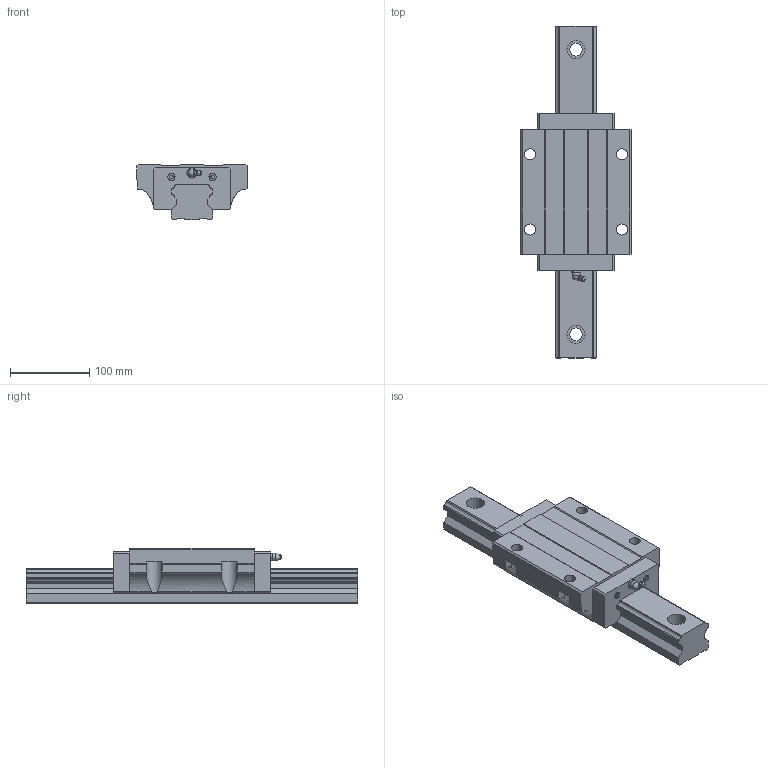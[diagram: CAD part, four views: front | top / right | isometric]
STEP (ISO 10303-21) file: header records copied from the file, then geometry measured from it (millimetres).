
FILE_DESCRIPTION(/* description */ (''),/* implementation_level */ '2;1');
FILE_NAME(/* name */ 'MSA55LE',/* time_stamp */ '2005-12-26T16:27:49+08:00',/* author */ (''),/* organization */ (''),/* preprocessor_version */ 'ST-DEVELOPER v9',/* originating_system */ 'UGS - NX 3.0',/* authorisation */ '');
FILE_SCHEMA (('CONFIG_CONTROL_DESIGN'));
Length unit declared in the file: millimetre
Products named in the file (1): kevi37F33h3c
Bounding box: 140 x 420 x 70 mm (x, y, z)
Volume: 1820211 mm3; surface area: 200048.7 mm2
Topology: 3 solids, 3 shells, 206 faces, 561 edges, 374 vertices
Faces by surface type: plane 133, cylinder 62, torus 7, sphere 2, cone 1, bspline 1
Full cylindrical faces by diameter (mm): 4.5 x4, 9 x4, 10 x1, 13 x2, 14 x4, 16 x4, 23 x4
Entity records: 6530 total; most frequent: CARTESIAN_POINT 1326, DIRECTION 1043, ORIENTED_EDGE 1038, EDGE_CURVE 519, VERTEX_POINT 360, AXIS2_PLACEMENT_3D 349, LINE 345, VECTOR 345
